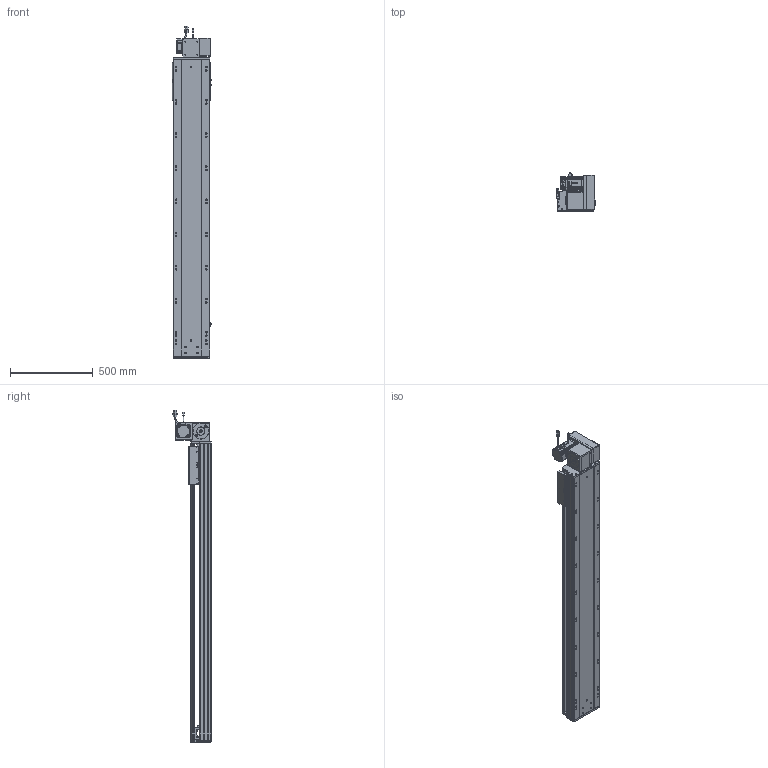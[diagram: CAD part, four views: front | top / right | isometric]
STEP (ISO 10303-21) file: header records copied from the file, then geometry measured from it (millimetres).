
FILE_DESCRIPTION (( 'STEP AP203' ), '1' );
FILE_NAME ('RY220-T-300-UR.SLDASM_1450.step', '2022-07-25T08:43:57', ( '' ), ( '' ), 'SwSTEP 2.0', 'SolidWorks 2016', '' );
FILE_SCHEMA (( 'CONFIG_CONTROL_DESIGN' ));
Length unit declared in the file: millimetre
Products named in the file (14): RY220-同步轮副支撑座6304×2; RY220-T-蛌殏萇儂假蚾啣(750W); RY220-俋离672覜茼んえ; RY220-T-湍謫欶(鍼踢); RY220翋肮祭謫釱; RY220翋肮祭謫裔啣; 怢湛750W_ECMA-CX0807ES; RY220-T-300-UR.SLDASM_1450; 覜茼ん672; RY220圉猾敕々湍臏賑輸; 滅袉蝶18-15; 110A-T-肮祭謫釱傷裔; RY220-T菁釱-300_1450; RY220-T-300-奻裔啣_1450
Assembly tree (18 placements, depth 2):
  RY220-T-300-UR.SLDASM_1450
    RY220-T菁釱-300_1450
    RY220翋肮祭謫釱
    覜茼ん672  x3
    RY220圉猾敕々湍臏賑輸
    RY220-T-300-奻裔啣_1450
    RY220-俋离672覜茼んえ
    滅袉蝶18-15  x3
    RY220翋肮祭謫裔啣  x2
    110A-T-肮祭謫釱傷裔
    怢湛750W_ECMA-CX0807ES
    RY220-T-湍謫欶(鍼踢)
    RY220-T-蛌殏萇儂假蚾啣(750W)
    RY220-同步轮副支撑座6304×2
Bounding box: 238.7 x 231.74 x 2003.27 mm (x, y, z)
Volume: 15169246.9 mm3; surface area: 4530125.3 mm2
Topology: 19 solids, 19 shells, 2722 faces, 7519 edges, 4756 vertices
Faces by surface type: cylinder 1294, plane 1069, cone 277, bspline 56, sphere 16, torus 10
Entity records: 90707 total; most frequent: CARTESIAN_POINT 25829, ORIENTED_EDGE 13466, DIRECTION 12792, EDGE_CURVE 6733, AXIS2_PLACEMENT_3D 4548, VERTEX_POINT 4380, LINE 3696, VECTOR 3696
